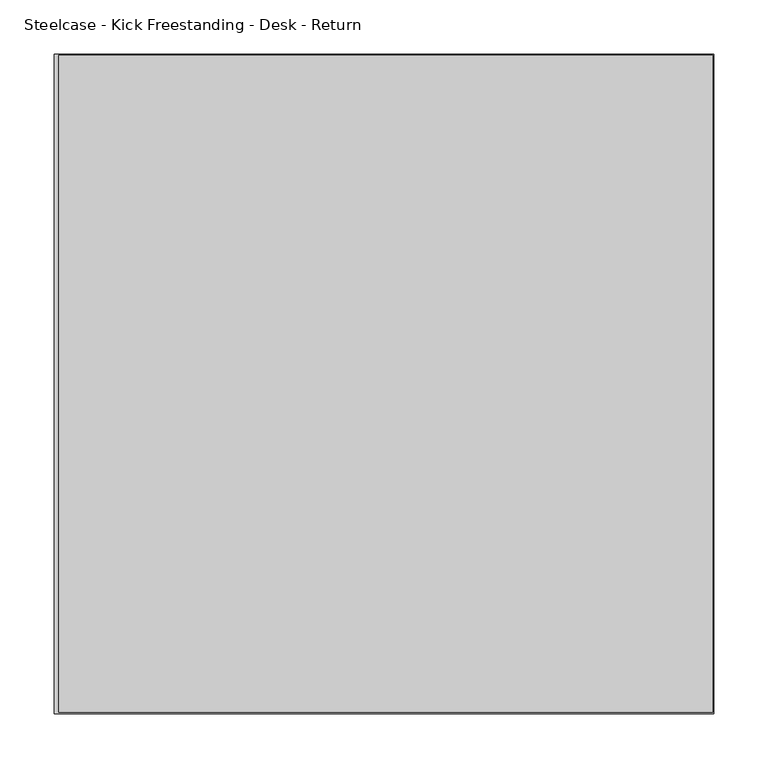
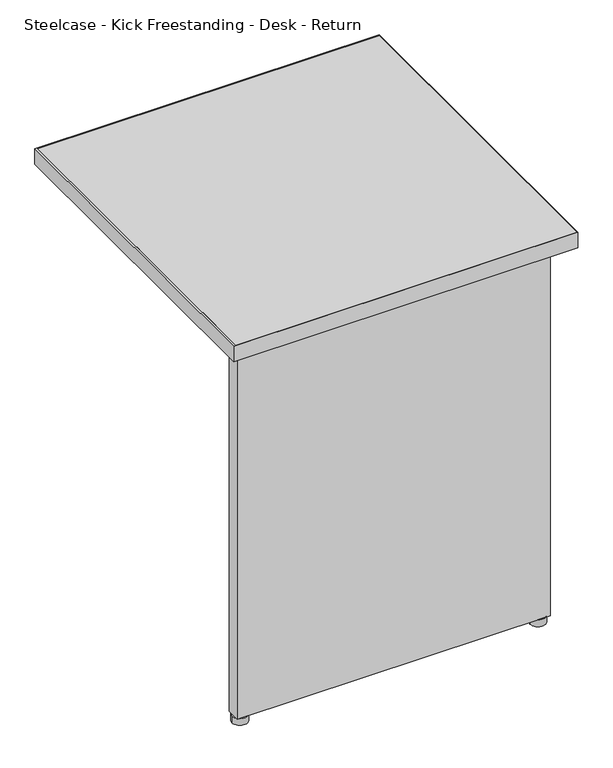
"""IFC4 building model written with IfcOpenShell, lengths in millimetres: furniture geometry, Steelcase - Kick Freestanding - Desk - Return : 24D x 24W - Right."""

from ifc_helpers import new_model, si_unit, point, frame, frame_2d, origin, origin_with_axes, place, context, project, spatial, polyline, circle_curve, trimmed, segment, composite_curve, outline, extrude, source, transform, mapped, element, save


def steelcase_kick_freestanding_desk_return_ca39f209(model_context):
    return source(origin(), model_context, "Body", "SweptSolid", [
        extrude(outline(composite_curve([segment(trimmed(circle_curve(frame_2d((2107.4714425, -1131.0145152)), 13.97), [point((2121.4414425, -1131.0145152))], [point((2093.5014425, -1131.0145152))], False, "CARTESIAN"), True, "CONTINUOUS"), segment(trimmed(circle_curve(frame_2d((2107.4714425, -1131.0145152)), 13.97), [point((2093.5014425, -1131.0145152))], [point((2121.4414425, -1131.0145152))], False, "CARTESIAN"), True, "CONTINUOUS")], self_intersect=False)), origin_with_axes(), (0.0, 0.0, 1.0), 12.7),
        extrude(outline(composite_curve([segment(trimmed(circle_curve(frame_2d((1579.6594425, -1131.0145152)), 13.97), [point((1593.6294425, -1131.0145152))], [point((1565.6894425, -1131.0145152))], False, "CARTESIAN"), True, "CONTINUOUS"), segment(trimmed(circle_curve(frame_2d((1579.6594425, -1131.0145152)), 13.97), [point((1565.6894425, -1131.0145152))], [point((1593.6294425, -1131.0145152))], False, "CARTESIAN"), True, "CONTINUOUS")], self_intersect=False)), origin_with_axes(), (0.0, 0.0, 1.0), 12.7),
        extrude(outline(polyline([(2122.7114425, -1118.4669152), (2122.7114425, -1142.9525098), (1568.2294473, -1142.9525098), (1568.2294473, -1118.4669041), (1691.2670317, -1118.4669041), (1691.2670317, -1140.8951136), (1790.9874347, -1140.8951136), (1790.9874347, -1118.4669041), (1899.7248382, -1118.4669041), (1899.7248382, -1140.8951136), (1999.4452412, -1140.8951136), (1999.4452412, -1118.4669152), (2122.7114425, -1118.4669152)])), frame((0.0, 0.0, 12.7), z_axis=(0.0, 0.0, 1.0), x_axis=(1.0, 0.0, 0.0)), (0.0, 0.0, 1.0), 682.244),
        extrude(outline(polyline([(1558.5012257, -548.0845152), (2162.8688425, -548.0845152), (2162.8688425, -1155.1445152), (1558.5012257, -1155.1445152), (1558.5012257, -548.0845152)])), frame((0.0, 0.0, 694.944), z_axis=(0.0, 0.0, 1.0), x_axis=(1.0, 0.0, 0.0)), (0.0, 0.0, 1.0), 28.956),
        extrude(outline(polyline([(1554.2594425, -546.8145152), (2163.8594425, -546.8145152), (2163.8594425, -1156.4145152), (1554.2594425, -1156.4145152), (1554.2594425, -546.8145152)]), holes=[polyline([(1558.5012257, -548.0845152), (1558.5012257, -1155.1445152), (2162.8688425, -1155.1445152), (2162.8688425, -548.0845152), (1558.5012257, -548.0845152)])]), frame((0.0, 0.0, 694.944), z_axis=(0.0, 0.0, 1.0), x_axis=(1.0, 0.0, 0.0)), (0.0, 0.0, 1.0), 28.956),
    ])


if __name__ == "__main__":
    model = new_model("IFC4")
    model_context = context("Model", 3, world=origin())
    ifc_project = project(units=[si_unit("LENGTHUNIT", "METRE", prefix="MILLI")], contexts=[model_context])
    site = spatial("IfcSite", under=ifc_project)
    building = spatial("IfcBuilding", under=site)
    placement = place(None, origin())
    steelcase_kick_freestanding_desk_return_shape = steelcase_kick_freestanding_desk_return_ca39f209(model_context)
    element("IfcFurniture", 1, ObjectType="Steelcase - Kick Freestanding - Desk - Return : 24D x 24W - Right", at=placement, inside=building, context=model_context, shape_type="MappedRepresentation", body=[
        mapped(steelcase_kick_freestanding_desk_return_shape, transform((0.0, 0.0, 0.0), x_axis=(1.0, 0.0, 0.0), y_axis=(0.0, 1.0, 0.0), z_axis=(0.0, 0.0, 1.0))),
    ])
    save(model, "model.ifc")
